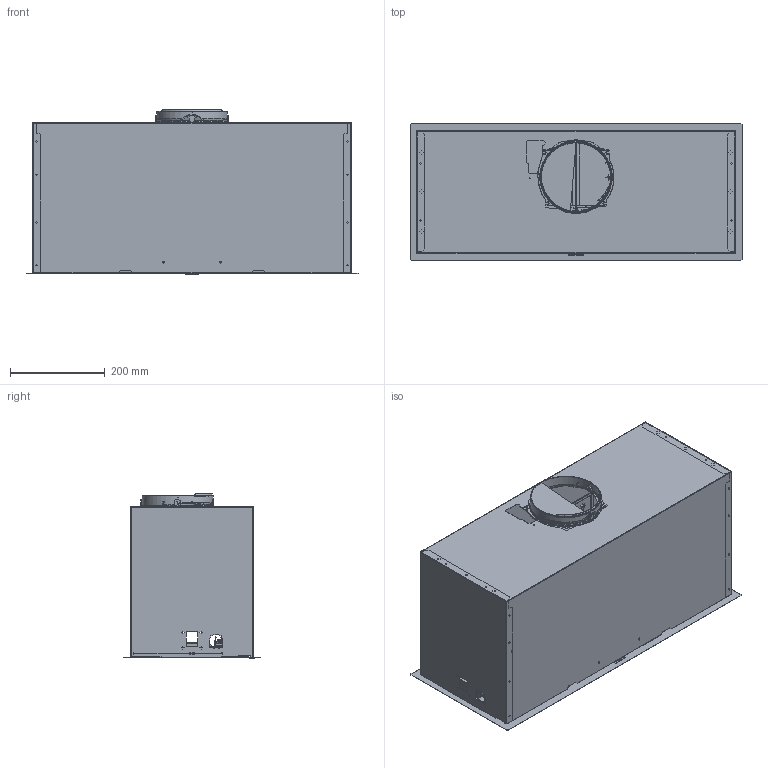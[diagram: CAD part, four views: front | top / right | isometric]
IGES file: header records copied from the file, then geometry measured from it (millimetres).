
Global section: file name: F:\_CONVERSIONE_CAD_2024_2025\03_3D kits new\07_Hoods\Solo Logo Piatto o 3D\3D001_Hoods_Box-Flush-Premium_FBFP-A70\3D001_Hoods_Box-Flush-Premium_FBFP-A70.igs; native system: Rhinoceros ( Jan  9 2024 ); preprocessor: Trout Lake IGES 012 Jan  9 2024; date: 240209.110857; units: millimetre
Bounding box: 700 x 290 x 347.79 mm (x, y, z)
Surface area: 2451180.8 mm2 (no closed solid volume)
Topology: 0 solids, 0 shells, 8576 faces, 50623 edges, 50431 vertices
Faces by surface type: bspline 8576
